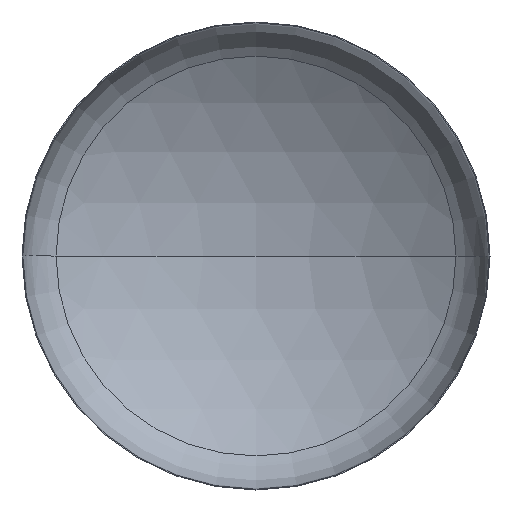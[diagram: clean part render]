
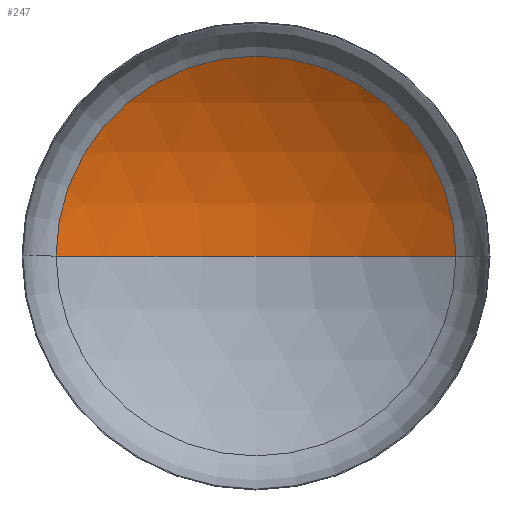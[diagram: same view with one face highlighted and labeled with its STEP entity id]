
A CAD part, front view. The second image highlights one B-rep face of the part: STEP entity #247.
In plain terms, the highlighted spherical face has radius 1440 mm.
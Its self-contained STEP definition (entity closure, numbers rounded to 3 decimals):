
#3 = ORIENTED_EDGE ( 'NONE', *, *, #110, .F. ) ;
#12 = AXIS2_PLACEMENT_3D ( 'NONE', #332, #274, #362 ) ;
#32 = AXIS2_PLACEMENT_3D ( 'NONE', #51, #34, #33 ) ;
#33 = DIRECTION ( 'NONE',  ( 1., 0., 0. ) ) ;
#34 = DIRECTION ( 'NONE',  ( 0., 0., 1. ) ) ;
#35 = AXIS2_PLACEMENT_3D ( 'NONE', #306, #331, #359 ) ;
#37 = AXIS2_PLACEMENT_3D ( 'NONE', #327, #329, #330 ) ;
#40 = VERTEX_POINT ( 'NONE', #308 ) ;
#51 = CARTESIAN_POINT ( 'NONE',  ( 0., -965.059, 0. ) ) ;
#62 = VERTEX_POINT ( 'NONE', #296 ) ;
#97 = ORIENTED_EDGE ( 'NONE', *, *, #106, .T. ) ;
#104 = VERTEX_POINT ( 'NONE', #204 ) ;
#106 = EDGE_CURVE ( 'NONE', #104, #62, #401, .T. ) ;
#108 = EDGE_CURVE ( 'NONE', #40, #104, #217, .T. ) ;
#110 = EDGE_CURVE ( 'NONE', #40, #62, #154, .T. ) ;
#120 = FACE_OUTER_BOUND ( 'NONE', #122, .T. ) ;
#122 = EDGE_LOOP ( 'NONE', ( #3, #239, #97 ) ) ;
#154 = CIRCLE ( 'NONE', #32, 1440. ) ;
#204 = CARTESIAN_POINT ( 'NONE',  ( 768.824, 252.525, 0. ) ) ;
#217 = CIRCLE ( 'NONE', #35, 1440. ) ;
#239 = ORIENTED_EDGE ( 'NONE', *, *, #108, .T. ) ;
#247 = ADVANCED_FACE ( 'NONE', ( #120 ), #319, .F. ) ;
#274 = DIRECTION ( 'NONE',  ( 0., 0., -1. ) ) ;
#296 = CARTESIAN_POINT ( 'NONE',  ( -768.824, 252.525, 0. ) ) ;
#306 = CARTESIAN_POINT ( 'NONE',  ( 0., -965.059, 0. ) ) ;
#308 = CARTESIAN_POINT ( 'NONE',  ( 0., 474.941, 0. ) ) ;
#319 = SPHERICAL_SURFACE ( 'NONE', #12, 1440. ) ;
#327 = CARTESIAN_POINT ( 'NONE',  ( 0., 252.525, 0. ) ) ;
#329 = DIRECTION ( 'NONE',  ( 0., -1., 0. ) ) ;
#330 = DIRECTION ( 'NONE',  ( 1., 0., 0. ) ) ;
#331 = DIRECTION ( 'NONE',  ( 0., 0., -1. ) ) ;
#332 = CARTESIAN_POINT ( 'NONE',  ( 0., -965.059, 0. ) ) ;
#359 = DIRECTION ( 'NONE',  ( -1., 0., 0. ) ) ;
#362 = DIRECTION ( 'NONE',  ( -1., 0., 0. ) ) ;
#401 = CIRCLE ( 'NONE', #37, 768.824 ) ;
